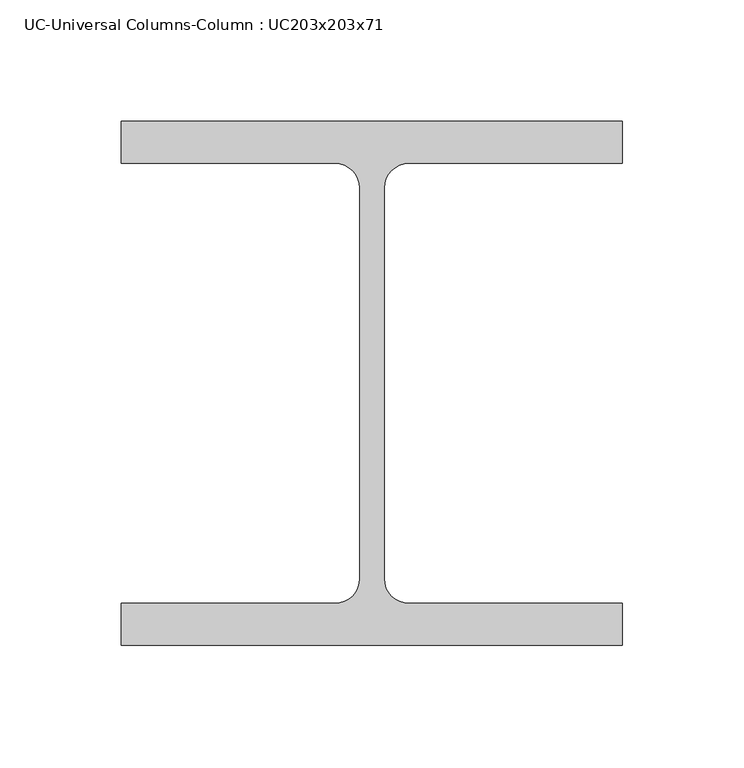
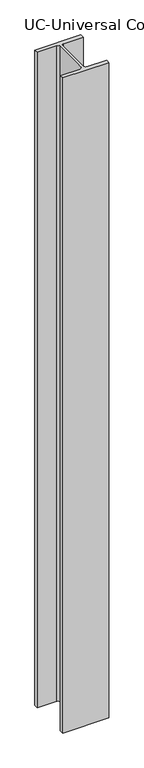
"""IFC4 building model written with IfcOpenShell, lengths in millimetres: column geometry, UC-Universal Columns-Column : UC203x203x71."""

from ifc_helpers import new_model, si_unit, point, frame, frame_2d, origin, place, context, project, spatial, polyline, circle_curve, trimmed, segment, composite_curve, outline, extrude, source, transform, mapped, element, save


def uc_universal_columns_column_uc203x203x71_4bd1f15e(model_context):
    return source(origin(), model_context, "Body", "SweptSolid", [
        extrude(outline(composite_curve([segment(polyline([(103.2, 107.9), (103.2, 90.6), (15.2, 90.6)]), True, "CONTINUOUS"), segment(trimmed(circle_curve(frame_2d((15.2, 80.4)), 10.2), [point((15.2, 90.6))], [point((5.0, 80.4))], True, "CARTESIAN"), True, "CONTINUOUS"), segment(polyline([(5.0, 80.4), (5.0, -80.4)]), True, "CONTINUOUS"), segment(trimmed(circle_curve(frame_2d((15.2, -80.4)), 10.2), [point((5.0, -80.4))], [point((15.2, -90.6))], True, "CARTESIAN"), True, "CONTINUOUS"), segment(polyline([(15.2, -90.6), (103.2, -90.6), (103.2, -107.9), (-103.2, -107.9), (-103.2, -90.6), (-15.2, -90.6)]), True, "CONTINUOUS"), segment(trimmed(circle_curve(frame_2d((-15.2, -80.4)), 10.2), [point((-15.2, -90.6))], [point((-5.0, -80.4))], True, "CARTESIAN"), True, "CONTINUOUS"), segment(polyline([(-5.0, -80.4), (-5.0, 80.4)]), True, "CONTINUOUS"), segment(trimmed(circle_curve(frame_2d((-15.2, 80.4)), 10.2), [point((-5.0, 80.4))], [point((-15.2, 90.6))], True, "CARTESIAN"), True, "CONTINUOUS"), segment(polyline([(-15.2, 90.6), (-103.2, 90.6), (-103.2, 107.9), (103.2, 107.9)]), True, "CONTINUOUS")], self_intersect=False)), frame((0.0, 0.0, 8595.0), z_axis=(0.0, 0.0, 1.0), x_axis=(1.0, 0.0, 0.0)), (0.0, 0.0, 1.0), 3105.0),
    ])


if __name__ == "__main__":
    model = new_model("IFC4")
    model_context = context("Model", 3, world=origin())
    ifc_project = project(units=[si_unit("LENGTHUNIT", "METRE", prefix="MILLI")], contexts=[model_context])
    site = spatial("IfcSite", under=ifc_project)
    building = spatial("IfcBuilding", under=site)
    placement = place(None, origin())
    uc_universal_columns_column_uc203x203x71_shape = uc_universal_columns_column_uc203x203x71_4bd1f15e(model_context)
    element("IfcColumn", 1, ObjectType="UC-Universal Columns-Column : UC203x203x71", at=placement, inside=building, context=model_context, shape_type="MappedRepresentation", body=[
        mapped(uc_universal_columns_column_uc203x203x71_shape, transform((0.0, 0.0, 0.0), x_axis=(1.0, 0.0, 0.0), y_axis=(0.0, 1.0, 0.0), z_axis=(0.0, 0.0, 1.0))),
    ])
    save(model, "model.ifc")
